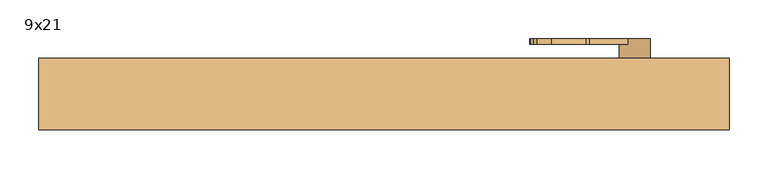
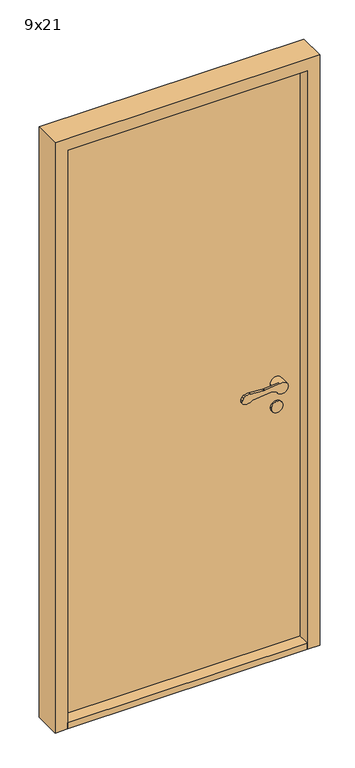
"""IFC4 building model written with IfcOpenShell, lengths in millimetres: door geometry, Innerdør Slett (Diplomat) : 9x21."""

from ifc_helpers import new_model, si_unit, point, frame, frame_2d, origin, origin_with_axes, place, context, project, spatial, polyline, circle_curve, trimmed, segment, composite_curve, outline, extrude, source, transform, mapped, element, save
from ifc_brep_helpers import plane_surface, cylinder_surface, revolved_surface, advanced_brep


def door_9x21_9f36cf64(model_context):
    return source(origin(), model_context, "Body", "SolidModel", [
        advanced_brep(
        [(343.9611305, -10.0, 949.1175955), (358.3841161, -10.0, 942.6204086), (396.379633, -10.0, 951.3474568), (367.2687793, -10.0, 969.1517356), (318.6891233, -10.0, 964.26032), (313.6202158, -10.0, 964.1804415), (268.8963175, -10.0, 967.2639242), (250.3175669, -10.0, 964.8810513), (245.505009, -10.0, 959.9624074), (241.8691983, -10.0, 951.8913379), (246.721536, -10.0, 938.7393398), (276.0476109, -10.0, 943.6260011), (338.8520664, -10.0, 949.9496913), (318.6891233, -2.8915284, 964.26032), (367.2687793, -2.8915284, 969.1517356), (356.379633, -2.8915284, 951.3474568), (358.3841161, -2.8915284, 942.6204086), (343.9611305, -2.8915284, 949.1175955), (338.8520664, -2.8915284, 949.9496913), (276.0476109, -2.8915284, 943.6260011), (246.721536, -2.8915284, 938.7393398), (241.8691983, -2.8915284, 951.8913379), (245.505009, -2.8915284, 959.9624074), (250.3175669, -2.8915284, 964.8810513), (268.8963175, -2.8915284, 967.2639242), (313.6202158, -2.8915284, 964.1804415), (396.379633, 25.0, 951.3474568), (356.379633, 25.0, 951.3474568)],
        [
            (0, 1),
            (1, 2, circle_curve(frame((376.379633, -10.0, 951.3474568), z_axis=(0.0, -1.0, 0.0), x_axis=(-1.0, 0.0, 0.0)), 20.0)),
            (2, 3, circle_curve(frame((376.379633, -10.0, 951.3474568), z_axis=(0.0, -1.0, 0.0), x_axis=(-1.0, 0.0, 0.0)), 20.0)),
            (3, 4),
            (4, 5, circle_curve(frame((315.683663, -10.0, 994.1093938), z_axis=(0.0, 1.0, 0.0), x_axis=(-0.9949691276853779, 0.0, -0.10018200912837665)), 30.0)),
            (5, 6),
            (6, 7, circle_curve(frame((263.2326797, -10.0, 937.8033877), z_axis=(0.0, -1.0, 0.0), x_axis=(-0.9949691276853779, 0.0, -0.10018200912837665)), 30.0)),
            (7, 8, circle_curve(frame((254.6226045, -10.0, 955.8551634), z_axis=(0.0, -1.0, 0.0), x_axis=(-0.9949691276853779, 0.0, -0.10018200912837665)), 10.0)),
            (8, 9),
            (9, 10, circle_curve(frame((250.9867937, -10.0, 947.7840939), z_axis=(0.0, -1.0, 0.0), x_axis=(-0.9949691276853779, 0.0, -0.10018200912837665)), 10.0)),
            (10, 11, circle_curve(frame((257.8569644, -10.0, 962.352734), z_axis=(0.0, -1.0, 0.0), x_axis=(-0.9949691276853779, 0.0, -0.10018200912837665)), 26.1072815)),
            (11, 12),
            (12, 0, circle_curve(frame((339.8538865, -10.0, 940.0), z_axis=(0.0, 1.0, 0.0), x_axis=(-0.9949691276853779, 0.0, -0.10018200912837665)), 10.0)),
            (13, 14),
            (14, 15, circle_curve(frame((376.379633, -2.8915284, 951.3474568), z_axis=(0.0, -1.0, 0.0), x_axis=(-1.0, 0.0, 0.0)), 20.0)),
            (15, 16, circle_curve(frame((376.379633, -2.8915284, 951.3474568), z_axis=(0.0, -1.0, 0.0), x_axis=(-1.0, 0.0, 0.0)), 20.0)),
            (16, 17),
            (17, 18, circle_curve(frame((339.8538865, -2.8915284, 940.0), z_axis=(0.0, -1.0, 0.0), x_axis=(-0.9949691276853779, 0.0, -0.10018200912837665)), 10.0)),
            (18, 19),
            (19, 20, circle_curve(frame((257.8569644, -2.8915284, 962.352734), z_axis=(0.0, 1.0, 0.0), x_axis=(-0.9949691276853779, 0.0, -0.10018200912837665)), 26.1072815)),
            (20, 21, circle_curve(frame((250.9867937, -2.8915284, 947.7840939), z_axis=(0.0, 1.0, 0.0), x_axis=(-0.9949691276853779, 0.0, -0.10018200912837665)), 10.0)),
            (21, 22),
            (22, 23, circle_curve(frame((254.6226045, -2.8915284, 955.8551634), z_axis=(0.0, 1.0, 0.0), x_axis=(-0.9949691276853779, 0.0, -0.10018200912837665)), 10.0)),
            (23, 24, circle_curve(frame((263.2326797, -2.8915284, 937.8033877), z_axis=(0.0, 1.0, 0.0), x_axis=(-0.9949691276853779, 0.0, -0.10018200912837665)), 30.0)),
            (24, 25),
            (25, 13, circle_curve(frame((315.683663, -2.8915284, 994.1093938), z_axis=(0.0, -1.0, 0.0), x_axis=(-0.9949691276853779, 0.0, -0.10018200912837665)), 30.0)),
            (3, 14),
            (13, 4),
            (16, 1),
            (0, 17),
            (12, 18),
            (11, 19),
            (10, 20),
            (9, 21),
            (8, 22),
            (7, 23),
            (6, 24),
            (5, 25),
            (26, 27, circle_curve(frame((376.379633, 25.0, 951.3474568), z_axis=(0.0, 1.0, 0.0), x_axis=(-1.0, 0.0, 0.0)), 20.0)),
            (27, 26, circle_curve(frame((376.379633, 25.0, 951.3474568), z_axis=(0.0, 1.0, 0.0), x_axis=(-1.0, 0.0, 0.0)), 20.0)),
            (26, 2),
            (15, 27),
        ],
        [
            plane_surface(frame((367.6960588, -10.0, 969.1947577), z_axis=(0.0, -1.0000000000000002, 0.0), x_axis=(0.9949691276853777, 0.0, 0.10018200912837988))),
            plane_surface(frame((367.6960588, -2.8915284, 969.1947577), z_axis=(0.0, 1.0000000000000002, 0.0), x_axis=(-0.9949691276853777, 0.0, -0.10018200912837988))),
            plane_surface(frame((318.6891233, -10.0, 964.26032), z_axis=(-0.10018200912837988, 0.0, 0.9949691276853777), x_axis=(0.0, 1.0, 0.0))),
            plane_surface(frame((376.9687366, -10.0, 934.2485115), z_axis=(-0.41072439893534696, 0.0, -0.91175954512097), x_axis=(0.0, 1.0, 0.0))),
            revolved_surface(polyline([(329.9041952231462, -2.8915284, 938.9981799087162), (329.9041952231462, -10.0, 938.9981799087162)]), (339.8538865, -2.8915284, 940.0), (0.0, 1.0, 0.0)),
            plane_surface(frame((338.8520664, -10.0, 949.9496913), z_axis=(0.10018200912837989, 0.0, -0.9949691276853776), x_axis=(0.0, 1.0, 0.0))),
            cylinder_surface(frame((257.8569644, -2.8915284, 962.352734), z_axis=(0.0, -1.0, 0.0), x_axis=(-0.9949691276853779, 0.0, -0.10018200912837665)), 26.1072815),
            cylinder_surface(frame((250.9867937, -2.8915284, 947.7840939), z_axis=(0.0, -1.0, 0.0), x_axis=(-0.9949691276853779, 0.0, -0.10018200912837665)), 10.0),
            plane_surface(frame((241.8691983, -10.0, 951.8913379), z_axis=(-0.9117595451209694, 0.0, 0.41072439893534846), x_axis=(0.0, 1.0, 0.0))),
            cylinder_surface(frame((254.6226045, -2.8915284, 955.8551634), z_axis=(0.0, -1.0, 0.0), x_axis=(-0.9949691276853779, 0.0, -0.10018200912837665)), 10.0),
            cylinder_surface(frame((263.2326797, -2.8915284, 937.8033877), z_axis=(0.0, -1.0, 0.0), x_axis=(-0.9949691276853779, 0.0, -0.10018200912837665)), 30.0),
            plane_surface(frame((268.8963175, -10.0, 967.2639242), z_axis=(0.06878157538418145, 0.0, 0.9976317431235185), x_axis=(0.0, 1.0, 0.0))),
            revolved_surface(polyline([(285.8345891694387, -2.8915284, 991.1039335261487), (285.8345891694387, -10.0, 991.1039335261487)]), (315.683663, -2.8915284, 994.1093938), (0.0, 1.0, 0.0)),
            plane_surface(frame((356.379633, 25.0, 951.3474568), z_axis=(0.0, 1.0, 0.0), x_axis=(0.0, 0.0, -1.0))),
            cylinder_surface(frame((376.379633, 25.0, 951.3474568), z_axis=(0.0, -1.0, 0.0), x_axis=(-1.0, 0.0, 0.0)), 20.0),
        ],
        [
            (0, [[1, 2, 3, 4, 5, 6, 7, 8, 9, 10, 11, 12, 13]]),
            (1, [[14, 15, 16, 17, 18, 19, 20, 21, 22, 23, 24, 25, 26]]),
            (2, [[-4, 27, -14, 28]]),
            (3, [[-17, 29, -1, 30]]),
            (4, [[31, -18, -30, -13]]),
            (5, [[32, -19, -31, -12]]),
            (6, [[33, -20, -32, -11]]),
            (7, [[34, -21, -33, -10]]),
            (8, [[35, -22, -34, -9]]),
            (9, [[36, -23, -35, -8]]),
            (10, [[37, -24, -36, -7]]),
            (11, [[38, -25, -37, -6]]),
            (12, [[-28, -26, -38, -5]]),
            (13, [[39, 40]]),
            (14, [[41, -2, -29, -16, 42, -39]]),
            (14, [[-42, -15, -27, -3, -41, -40]]),
        ],
    ),
        extrude(outline(composite_curve([segment(trimmed(circle_curve(frame_2d((866.3474568, 376.379633)), 20.0), [point((866.3474568, 396.379633))], [point((866.3474568, 356.379633))], False, "CARTESIAN"), True, "CONTINUOUS"), segment(trimmed(circle_curve(frame_2d((866.3474568, 376.379633)), 20.0), [point((866.3474568, 356.379633))], [point((866.3474568, 396.379633))], False, "CARTESIAN"), True, "CONTINUOUS")], self_intersect=False)), frame((0.0, 20.0, 0.0), z_axis=(0.0, 1.0, 0.0), x_axis=(0.0, 0.0, 1.0)), (0.0, 0.0, 1.0), 5.0),
        advanced_brep(
        [(343.9611305, 100.0, 949.1175955), (338.8520664, 100.0, 949.9496913), (276.0476109, 100.0, 943.6260011), (246.721536, 100.0, 938.7393398), (241.8691983, 100.0, 951.8913379), (245.505009, 100.0, 959.9624074), (250.3175669, 100.0, 964.8810513), (268.8963175, 100.0, 967.2639242), (313.6202158, 100.0, 964.1804415), (318.6891233, 100.0, 964.26032), (367.2687793, 100.0, 969.1517356), (396.379633, 100.0, 951.3474568), (358.3841161, 100.0, 942.6204086), (318.6891233, 92.8915284, 964.26032), (313.6202158, 92.8915284, 964.1804415), (268.8963175, 92.8915284, 967.2639242), (250.3175669, 92.8915284, 964.8810513), (245.505009, 92.8915284, 959.9624074), (241.8691983, 92.8915284, 951.8913379), (246.721536, 92.8915284, 938.7393398), (276.0476109, 92.8915284, 943.6260011), (338.8520664, 92.8915284, 949.9496913), (343.9611305, 92.8915284, 949.1175955), (358.3841161, 92.8915284, 942.6204086), (356.379633, 92.8915284, 951.3474568), (367.2687793, 92.8915284, 969.1517356), (396.379633, 65.0, 951.3474568), (356.379633, 65.0, 951.3474568)],
        [
            (0, 1, circle_curve(frame((339.8538865, 100.0, 940.0), z_axis=(0.0, -1.0, 0.0), x_axis=(-0.9949691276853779, 0.0, -0.10018200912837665)), 10.0)),
            (1, 2),
            (2, 3, circle_curve(frame((257.8569644, 100.0, 962.352734), z_axis=(0.0, 1.0, 0.0), x_axis=(-0.9949691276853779, 0.0, -0.10018200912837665)), 26.1072815)),
            (3, 4, circle_curve(frame((250.9867937, 100.0, 947.7840939), z_axis=(0.0, 1.0, 0.0), x_axis=(-0.9949691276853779, 0.0, -0.10018200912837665)), 10.0)),
            (4, 5),
            (5, 6, circle_curve(frame((254.6226045, 100.0, 955.8551634), z_axis=(0.0, 1.0, 0.0), x_axis=(-0.9949691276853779, 0.0, -0.10018200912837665)), 10.0)),
            (6, 7, circle_curve(frame((263.2326797, 100.0, 937.8033877), z_axis=(0.0, 1.0, 0.0), x_axis=(-0.9949691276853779, 0.0, -0.10018200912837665)), 30.0)),
            (7, 8),
            (8, 9, circle_curve(frame((315.683663, 100.0, 994.1093938), z_axis=(0.0, -1.0, 0.0), x_axis=(-0.9949691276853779, 0.0, -0.10018200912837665)), 30.0)),
            (9, 10),
            (10, 11, circle_curve(frame((376.379633, 100.0, 951.3474568), z_axis=(0.0, 1.0, 0.0), x_axis=(-1.0, 0.0, 0.0)), 20.0)),
            (11, 12, circle_curve(frame((376.379633, 100.0, 951.3474568), z_axis=(0.0, 1.0, 0.0), x_axis=(-1.0, 0.0, 0.0)), 20.0)),
            (12, 0),
            (13, 14, circle_curve(frame((315.683663, 92.8915284, 994.1093938), z_axis=(0.0, 1.0, 0.0), x_axis=(-0.9949691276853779, 0.0, -0.10018200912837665)), 30.0)),
            (14, 15),
            (15, 16, circle_curve(frame((263.2326797, 92.8915284, 937.8033877), z_axis=(0.0, -1.0, 0.0), x_axis=(-0.9949691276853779, 0.0, -0.10018200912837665)), 30.0)),
            (16, 17, circle_curve(frame((254.6226045, 92.8915284, 955.8551634), z_axis=(0.0, -1.0, 0.0), x_axis=(-0.9949691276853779, 0.0, -0.10018200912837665)), 10.0)),
            (17, 18),
            (18, 19, circle_curve(frame((250.9867937, 92.8915284, 947.7840939), z_axis=(0.0, -1.0, 0.0), x_axis=(-0.9949691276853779, 0.0, -0.10018200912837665)), 10.0)),
            (19, 20, circle_curve(frame((257.8569644, 92.8915284, 962.352734), z_axis=(0.0, -1.0, 0.0), x_axis=(-0.9949691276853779, 0.0, -0.10018200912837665)), 26.1072815)),
            (20, 21),
            (21, 22, circle_curve(frame((339.8538865, 92.8915284, 940.0), z_axis=(0.0, 1.0, 0.0), x_axis=(-0.9949691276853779, 0.0, -0.10018200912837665)), 10.0)),
            (22, 23),
            (23, 24, circle_curve(frame((376.379633, 92.8915284, 951.3474568), z_axis=(0.0, 1.0, 0.0), x_axis=(-1.0, 0.0, 0.0)), 20.0)),
            (24, 25, circle_curve(frame((376.379633, 92.8915284, 951.3474568), z_axis=(0.0, 1.0, 0.0), x_axis=(-1.0, 0.0, 0.0)), 20.0)),
            (25, 13),
            (9, 13),
            (25, 10),
            (22, 0),
            (12, 23),
            (21, 1),
            (20, 2),
            (19, 3),
            (18, 4),
            (17, 5),
            (16, 6),
            (15, 7),
            (14, 8),
            (26, 27, circle_curve(frame((376.379633, 65.0, 951.3474568), z_axis=(0.0, -1.0, 0.0), x_axis=(-1.0, 0.0, 0.0)), 20.0)),
            (27, 26, circle_curve(frame((376.379633, 65.0, 951.3474568), z_axis=(0.0, -1.0, 0.0), x_axis=(-1.0, 0.0, 0.0)), 20.0)),
            (27, 24),
            (11, 26),
        ],
        [
            plane_surface(frame((367.6960588, 100.0, 969.1947577), z_axis=(0.0, 1.0000000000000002, 0.0), x_axis=(0.9949691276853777, 0.0, 0.10018200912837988))),
            plane_surface(frame((367.6960588, 92.8915284, 969.1947577), z_axis=(0.0, -1.0000000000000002, 0.0), x_axis=(-0.9949691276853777, 0.0, -0.10018200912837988))),
            plane_surface(frame((318.6891233, 100.0, 964.26032), z_axis=(-0.10018200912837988, 0.0, 0.9949691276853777), x_axis=(0.0, -1.0, 0.0))),
            plane_surface(frame((376.9687366, 100.0, 934.2485115), z_axis=(-0.41072439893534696, 0.0, -0.91175954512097), x_axis=(0.0, -1.0, 0.0))),
            revolved_surface(polyline([(329.9041952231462, 92.8915284, 938.9981799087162), (329.9041952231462, 100.0, 938.9981799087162)]), (339.8538865, 92.8915284, 940.0), (0.0, -1.0, 0.0)),
            plane_surface(frame((338.8520664, 100.0, 949.9496913), z_axis=(0.10018200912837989, 0.0, -0.9949691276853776), x_axis=(0.0, -1.0, 0.0))),
            cylinder_surface(frame((257.8569644, 92.8915284, 962.352734), z_axis=(0.0, 1.0, 0.0), x_axis=(-0.9949691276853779, 0.0, -0.10018200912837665)), 26.1072815),
            cylinder_surface(frame((250.9867937, 92.8915284, 947.7840939), z_axis=(0.0, 1.0, 0.0), x_axis=(-0.9949691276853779, 0.0, -0.10018200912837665)), 10.0),
            plane_surface(frame((241.8691983, 100.0, 951.8913379), z_axis=(-0.9117595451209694, 0.0, 0.41072439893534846), x_axis=(0.0, -1.0, 0.0))),
            cylinder_surface(frame((254.6226045, 92.8915284, 955.8551634), z_axis=(0.0, 1.0, 0.0), x_axis=(-0.9949691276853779, 0.0, -0.10018200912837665)), 10.0),
            cylinder_surface(frame((263.2326797, 92.8915284, 937.8033877), z_axis=(0.0, 1.0, 0.0), x_axis=(-0.9949691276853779, 0.0, -0.10018200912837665)), 30.0),
            plane_surface(frame((268.8963175, 100.0, 967.2639242), z_axis=(0.06878157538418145, 0.0, 0.9976317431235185), x_axis=(0.0, -1.0, 0.0))),
            revolved_surface(polyline([(285.8345891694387, 92.8915284, 991.1039335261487), (285.8345891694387, 100.0, 991.1039335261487)]), (315.683663, 92.8915284, 994.1093938), (0.0, -1.0, 0.0)),
            plane_surface(frame((356.379633, 65.0, 951.3474568), z_axis=(0.0, -1.0, 0.0), x_axis=(0.0, 0.0, -1.0))),
            cylinder_surface(frame((376.379633, 65.0, 951.3474568), z_axis=(0.0, 1.0, 0.0), x_axis=(-1.0, 0.0, 0.0)), 20.0),
        ],
        [
            (0, [[1, 2, 3, 4, 5, 6, 7, 8, 9, 10, 11, 12, 13]]),
            (1, [[14, 15, 16, 17, 18, 19, 20, 21, 22, 23, 24, 25, 26]]),
            (2, [[27, -26, 28, -10]]),
            (3, [[29, -13, 30, -23]]),
            (4, [[-1, -29, -22, 31]]),
            (5, [[-2, -31, -21, 32]]),
            (6, [[-3, -32, -20, 33]]),
            (7, [[-4, -33, -19, 34]]),
            (8, [[-5, -34, -18, 35]]),
            (9, [[-6, -35, -17, 36]]),
            (10, [[-7, -36, -16, 37]]),
            (11, [[-8, -37, -15, 38]]),
            (12, [[-9, -38, -14, -27]]),
            (13, [[39, 40]]),
            (14, [[-40, 41, -24, -30, -12, 42]]),
            (14, [[-39, -42, -11, -28, -25, -41]]),
        ],
    ),
        extrude(outline(composite_curve([segment(trimmed(circle_curve(frame_2d((866.3474568, 376.379633)), 20.0), [point((866.3474568, 396.379633))], [point((866.3474568, 356.379633))], False, "CARTESIAN"), True, "CONTINUOUS"), segment(trimmed(circle_curve(frame_2d((866.3474568, 376.379633)), 20.0), [point((866.3474568, 356.379633))], [point((866.3474568, 396.379633))], False, "CARTESIAN"), True, "CONTINUOUS")], self_intersect=False)), frame((0.0, 65.0, 0.0), z_axis=(0.0, 1.0, 0.0), x_axis=(0.0, 0.0, 1.0)), (0.0, 0.0, 1.0), 5.0),
        extrude(outline(polyline([(456.379633, -17.0), (-349.620367, -17.0), (-349.620367, 75.0), (456.379633, 75.0), (456.379633, -17.0)])), origin_with_axes(), (0.0, 0.0, 1.0), 22.0),
        extrude(outline(polyline([(456.379633, 25.0), (-349.620367, 25.0), (-349.620367, 75.0), (456.379633, 75.0), (456.379633, 25.0)])), frame((0.0, 0.0, 22.0), z_axis=(0.0, 0.0, 1.0), x_axis=(1.0, 0.0, 0.0)), (0.0, 0.0, 1.0), 2031.0),
        extrude(outline(polyline([(0.0, -391.620367), (0.0, -349.620367), (2053.0, -349.620367), (2053.0, 456.379633), (0.0, 456.379633), (0.0, 498.379633), (2095.0, 498.379633), (2095.0, -391.620367), (0.0, -391.620367)])), frame((0.0, -17.0, 0.0), z_axis=(0.0, 1.0, 0.0), x_axis=(0.0, 0.0, 1.0)), (0.0, 0.0, 1.0), 92.0),
    ])


if __name__ == "__main__":
    model = new_model("IFC4")
    model_context = context("Model", 3, world=origin())
    ifc_project = project(units=[si_unit("LENGTHUNIT", "METRE", prefix="MILLI")], contexts=[model_context])
    site = spatial("IfcSite", under=ifc_project)
    building = spatial("IfcBuilding", under=site)
    placement = place(None, origin())
    door_9x21_shape = door_9x21_9f36cf64(model_context)
    element("IfcDoor", 1, ObjectType="Innerdør Slett (Diplomat) : 9x21", at=placement, inside=building, context=model_context, shape_type="MappedRepresentation", body=[
        mapped(door_9x21_shape, transform((0.0, 0.0, 0.0), x_axis=(1.0, 0.0, 0.0), y_axis=(0.0, 1.0, 0.0), z_axis=(0.0, 0.0, 1.0))),
    ])
    save(model, "model.ifc")
